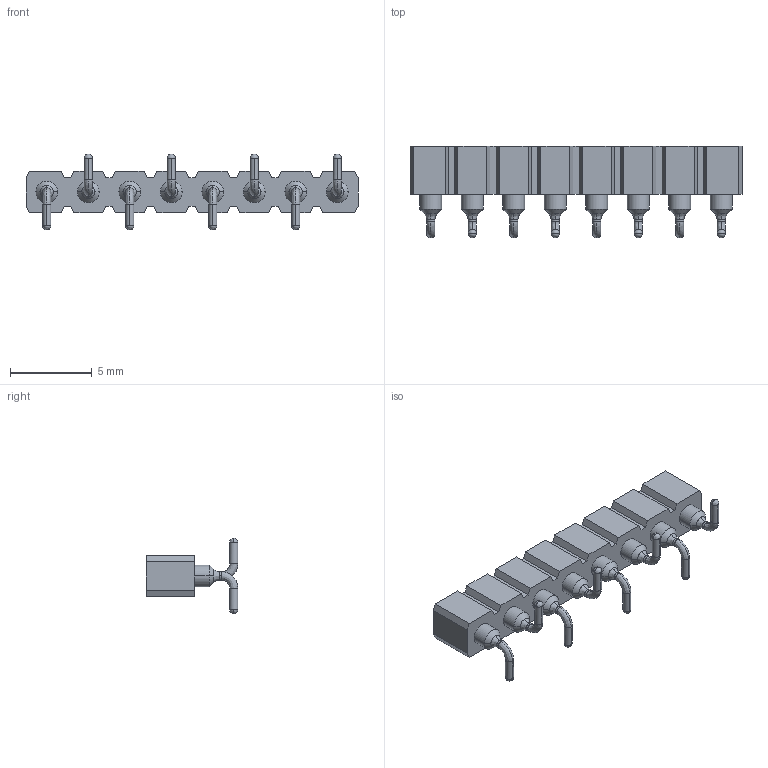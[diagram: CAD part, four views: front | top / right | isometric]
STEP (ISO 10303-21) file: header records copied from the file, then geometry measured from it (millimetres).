
FILE_DESCRIPTION(('FreeCAD Model'),'2;1');
FILE_NAME('Open CASCADE Shape Model','2022-03-17T10:45:35',('Author'),( ''),'Open CASCADE STEP processor 7.5','FreeCAD','Unknown');
FILE_SCHEMA(('AUTOMOTIVE_DESIGN { 1 0 10303 214 1 1 1 1 }'));
Length unit declared in the file: millimetre
Products named in the file (1): 1001
Bounding box: 20.32 x 5.6 x 4.64 mm (x, y, z)
Volume: 136.4 mm3; surface area: 467.6 mm2
Topology: 1 solids, 1 shells, 418 faces, 1016 edges, 592 vertices
Faces by surface type: bspline 418
Entity records: 13198 total; most frequent: CARTESIAN_POINT 7745, ORIENTED_EDGE 1936, EDGE_CURVE 968, VERTEX_POINT 592, B_SPLINE_CURVE_WITH_KNOTS 496, FACE_BOUND 458, EDGE_LOOP 458, ADVANCED_FACE 418
